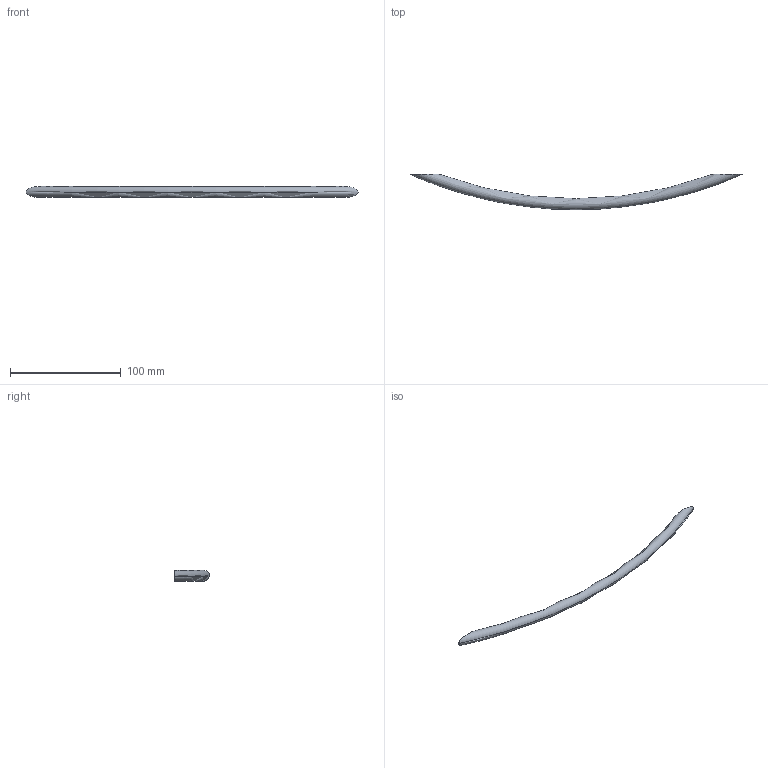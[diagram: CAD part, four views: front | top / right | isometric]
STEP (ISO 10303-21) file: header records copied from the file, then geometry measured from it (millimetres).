
FILE_DESCRIPTION( ( '' ), '1' );
FILE_NAME( 'D:/1.AUTOCAD EXPORT/Group 10/sheet_10_1/DONE/VIJAY/9070466.stp', '2013-10-29T11:08:59', ( '' ), ( '' ), ' ', ' ', ' ' );
FILE_SCHEMA( ( 'CONFIG_CONTROL_DESIGN' ) );
Length unit declared in the file: millimetre
Products named in the file (1): 1
Bounding box: 300 x 31.93 x 9.96 mm (x, y, z)
Volume: 21945 mm3; surface area: 9397.8 mm2
Topology: 1 solids, 1 shells, 10 faces, 18 edges, 12 vertices
Faces by surface type: cylinder 4, plane 4, torus 2
Entity records: 452 total; most frequent: CARTESIAN_POINT 205, DIRECTION 46, ORIENTED_EDGE 36, AXIS2_PLACEMENT_3D 21, EDGE_CURVE 18, EDGE_LOOP 12, VERTEX_POINT 12, ADVANCED_FACE 10
